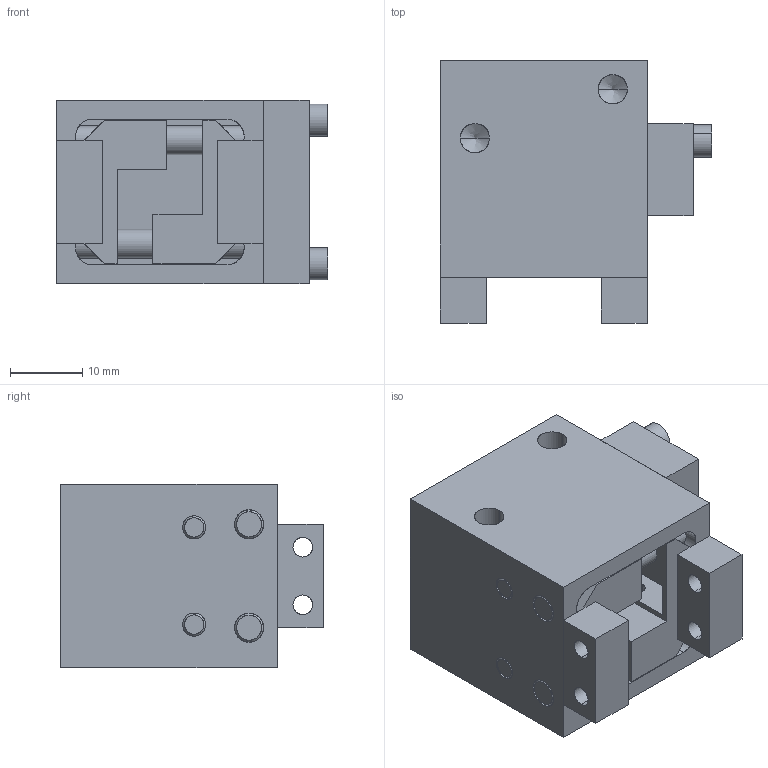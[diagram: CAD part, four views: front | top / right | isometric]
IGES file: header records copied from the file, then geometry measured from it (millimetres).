
Start section: SolidWorks IGES file using analytic representation for surfaces
Global section: file name: C:\Users\jmkuhnes\Pictures\PERSONAL\AGP\AGP-187\AGP-187 OPEN w BLOCK in MM.IGS; native system: SolidWorks 2013; preprocessor: SolidWorks 2013; author: jmkuhnes; date: 141031.134116; units: millimetre
Bounding box: 37.47 x 36.3 x 25.4 mm (x, y, z)
Surface area: 13928.6 mm2 (no closed solid volume)
Topology: 0 solids, 0 shells, 244 faces, 4308 edges, 4288 vertices
Faces by surface type: revolution 146, bspline 98
